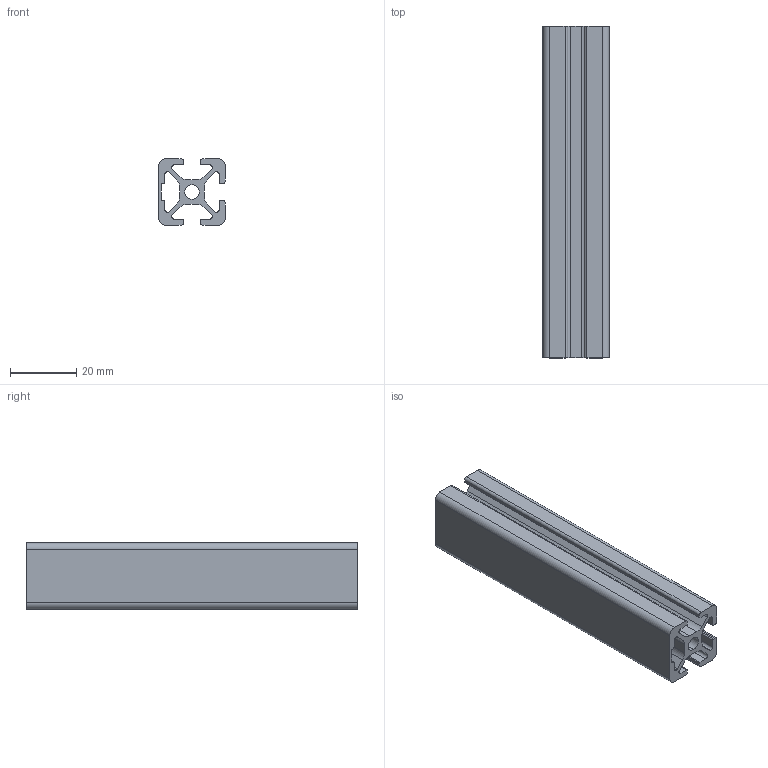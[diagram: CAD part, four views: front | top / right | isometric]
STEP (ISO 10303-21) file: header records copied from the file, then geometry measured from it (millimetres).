
FILE_DESCRIPTION (( 'STEP AP203' ), '1' );
FILE_NAME ('0105P2020-1N.STEP', '2024-02-27T13:24:42', ( 'Windows-Benutzer' ), ( '' ), 'SwSTEP 2.0', 'SolidWorks 2023', '' );
FILE_SCHEMA (( 'CONFIG_CONTROL_DESIGN' ));
Length unit declared in the file: millimetre
Products named in the file (1): 0105P2020-1N
Bounding box: 20 x 100 x 20 mm (x, y, z)
Volume: 17453.7 mm3; surface area: 18753.3 mm2
Topology: 1 solids, 1 shells, 78 faces, 228 edges, 152 vertices
Faces by surface type: cylinder 40, plane 38
Entity records: 2697 total; most frequent: DIRECTION 466, CARTESIAN_POINT 459, ORIENTED_EDGE 456, EDGE_CURVE 228, AXIS2_PLACEMENT_3D 159, VERTEX_POINT 152, VECTOR 148, LINE 148
